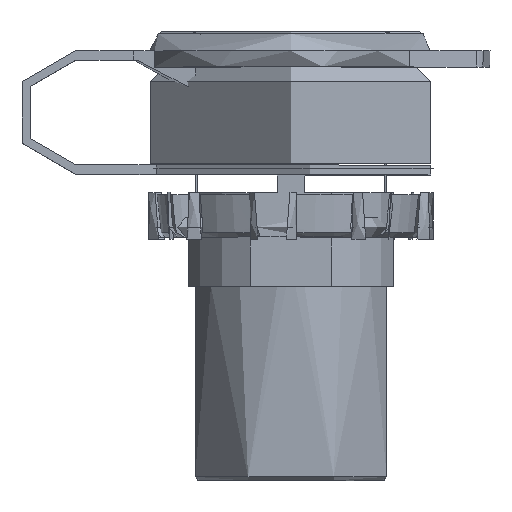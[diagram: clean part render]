
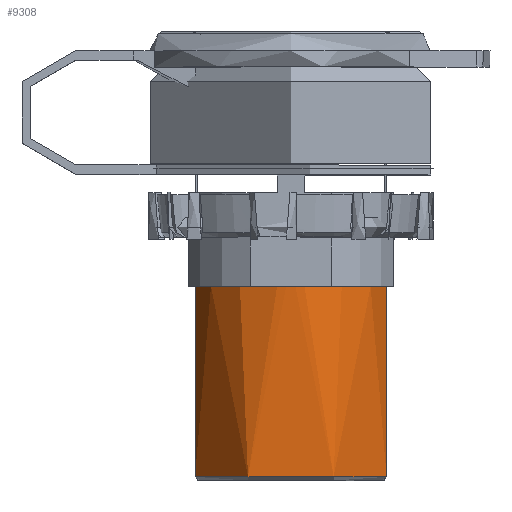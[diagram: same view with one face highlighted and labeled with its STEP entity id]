
A CAD part, top view. The second image highlights one B-rep face of the part: STEP entity #9308.
In plain terms, the highlighted cylindrical face has radius 10.15 mm (diameter 20.3 mm), a partial arc.
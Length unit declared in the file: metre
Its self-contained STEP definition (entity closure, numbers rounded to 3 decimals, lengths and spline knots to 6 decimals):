
#9171=CARTESIAN_POINT('',(1.69934,0.059479,0.00217));
#9172=VERTEX_POINT('',#9171);
#9175=CARTESIAN_POINT('',(1.689425,0.059479,0.));
#9176=DIRECTION('',(0.,-1.,0.));
#9177=DIRECTION('',(1.,0.,0.));
#9178=AXIS2_PLACEMENT_3D('',#9175,#9176,#9177);
#9179=CIRCLE('',#9178,0.01015);
#9180=CARTESIAN_POINT('',(1.67951,0.059479,0.00217));
#9181=VERTEX_POINT('',#9180);
#9182=EDGE_CURVE('',#9172,#9181,#9179,.T.);
#9210=CARTESIAN_POINT('',(1.690846,0.079179,0.01005));
#9211=VERTEX_POINT('',#9210);
#9212=CARTESIAN_POINT('',(1.688004,0.079179,0.01005));
#9213=VERTEX_POINT('',#9212);
#9216=CARTESIAN_POINT('',(1.689425,0.079179,0.));
#9217=DIRECTION('',(0.,1.,0.));
#9218=DIRECTION('',(-1.,0.,0.));
#9219=AXIS2_PLACEMENT_3D('',#9216,#9217,#9218);
#9220=CIRCLE('',#9219,0.01015);
#9221=EDGE_CURVE('',#9213,#9211,#9220,.T.);
#9242=CARTESIAN_POINT('',(1.689425,0.079179,0.));
#9243=DIRECTION('',(0.,1.,0.));
#9244=DIRECTION('',(-1.,0.,0.));
#9245=AXIS2_PLACEMENT_3D('',#9242,#9243,#9244);
#9246=CIRCLE('',#9245,0.01015);
#9247=CARTESIAN_POINT('',(1.69934,0.079179,0.00217));
#9248=VERTEX_POINT('',#9247);
#9249=EDGE_CURVE('',#9211,#9248,#9246,.T.);
#9277=CARTESIAN_POINT('',(1.689425,0.077179,0.));
#9278=DIRECTION('',(0.,-1.,0.));
#9279=DIRECTION('',(-1.,0.,0.));
#9280=AXIS2_PLACEMENT_3D('',#9277,#9278,#9279);
#9281=CYLINDRICAL_SURFACE('',#9280,0.01015);
#9282=CARTESIAN_POINT('',(1.69934,0.069454,0.00217));
#9283=DIRECTION('',(0.,-1.,0.));
#9284=VECTOR('',#9283,1.);
#9285=LINE('',#9282,#9284);
#9286=EDGE_CURVE('',#9248,#9172,#9285,.T.);
#9287=ORIENTED_EDGE('',*,*,#9286,.F.);
#9288=ORIENTED_EDGE('',*,*,#9249,.F.);
#9289=ORIENTED_EDGE('',*,*,#9221,.F.);
#9290=CARTESIAN_POINT('',(1.689425,0.079179,0.));
#9291=DIRECTION('',(0.,1.,0.));
#9292=DIRECTION('',(-1.,0.,0.));
#9293=AXIS2_PLACEMENT_3D('',#9290,#9291,#9292);
#9294=CIRCLE('',#9293,0.01015);
#9295=CARTESIAN_POINT('',(1.67951,0.079179,0.00217));
#9296=VERTEX_POINT('',#9295);
#9297=EDGE_CURVE('',#9296,#9213,#9294,.T.);
#9298=ORIENTED_EDGE('',*,*,#9297,.F.);
#9299=CARTESIAN_POINT('',(1.67951,0.077179,0.00217));
#9300=DIRECTION('',(0.,-1.,0.));
#9301=VECTOR('',#9300,1.);
#9302=LINE('',#9299,#9301);
#9303=EDGE_CURVE('',#9296,#9181,#9302,.T.);
#9304=ORIENTED_EDGE('',*,*,#9303,.T.);
#9305=ORIENTED_EDGE('',*,*,#9182,.F.);
#9306=EDGE_LOOP('',(#9287,#9288,#9289,#9298,#9304,#9305));
#9307=FACE_BOUND('',#9306,.T.);
#9308=ADVANCED_FACE('',(#9307),#9281,.T.);
